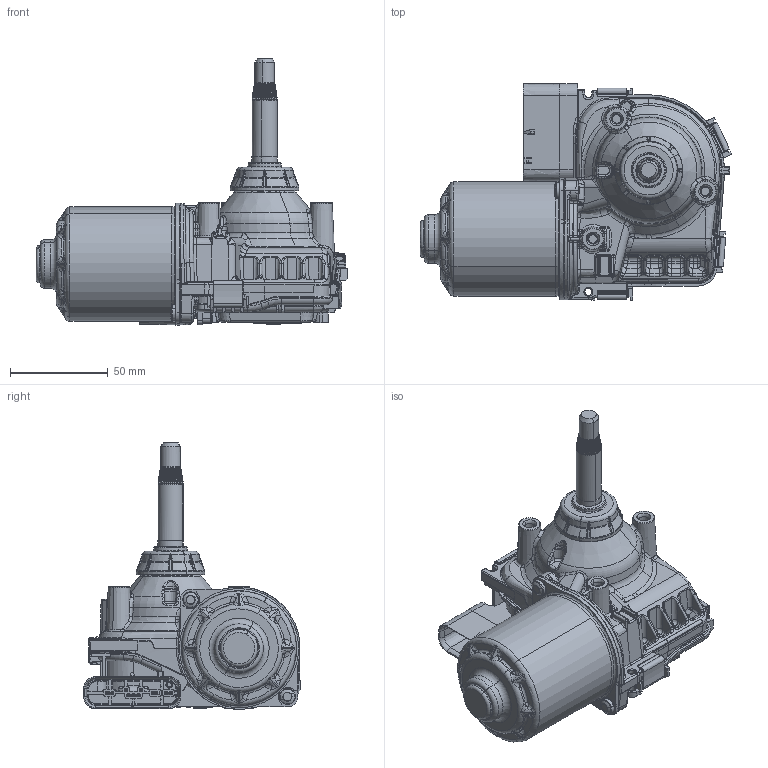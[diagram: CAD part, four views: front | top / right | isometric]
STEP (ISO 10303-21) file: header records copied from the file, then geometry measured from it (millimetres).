
FILE_DESCRIPTION (( 'STEP AP203' ), '1' );
FILE_NAME ('long shaft wiper motor.STEP', '2022-02-03T21:03:23', ( '' ), ( '' ), 'SwSTEP 2.0', 'SolidWorks 2021', '' );
FILE_SCHEMA (( 'CONFIG_CONTROL_DESIGN' ));
Length unit declared in the file: millimetre
Products named in the file (1): long shaft wiper motor
Bounding box: 159.14 x 110.69 x 136.21 mm (x, y, z)
Volume: 489049.9 mm3; surface area: 70805.9 mm2
Topology: 1 solids, 1 shells, 3425 faces, 8830 edges, 5305 vertices
Faces by surface type: bspline 1150, plane 973, cylinder 736, torus 326, cone 165, sphere 75
Entity records: 183922 total; most frequent: CARTESIAN_POINT 112090, ORIENTED_EDGE 17442, DIRECTION 10978, EDGE_CURVE 8721, VERTEX_POINT 5304, AXIS2_PLACEMENT_3D 3960, B_SPLINE_CURVE_WITH_KNOTS 3842, EDGE_LOOP 3491
